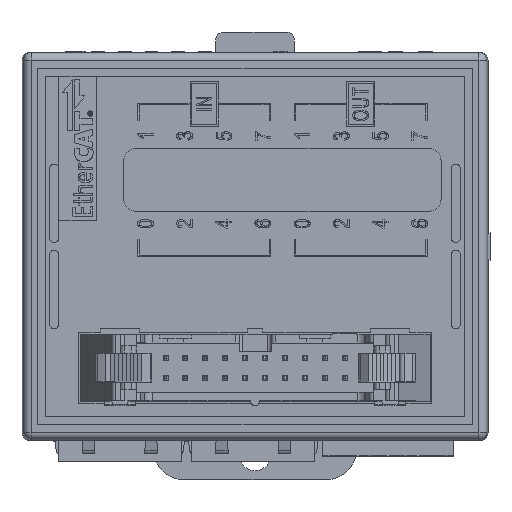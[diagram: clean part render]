
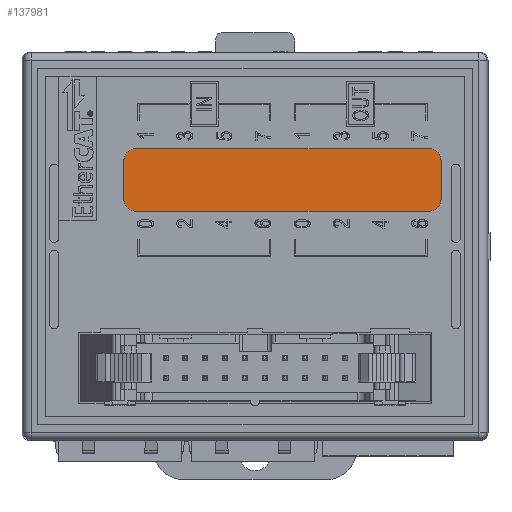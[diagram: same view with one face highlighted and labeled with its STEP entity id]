
A CAD part, top view. The second image highlights one B-rep face of the part: STEP entity #137981.
In plain terms, the highlighted planar face has unit normal (0, 0, 1).
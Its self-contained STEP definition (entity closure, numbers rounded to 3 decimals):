
#38442=DIRECTION('',(-1.,0.,0.));
#38443=VECTOR('',#38442,37.5);
#38444=CARTESIAN_POINT('',(22.25,12.5,30.9));
#38445=LINE('',#38444,#38443);
#38446=CARTESIAN_POINT('',(22.25,11.,30.9));
#38447=DIRECTION('',(0.,0.,1.));
#38448=DIRECTION('',(1.,0.,0.));
#38449=AXIS2_PLACEMENT_3D('',#38446,#38447,#38448);
#38451=DIRECTION('',(0.,1.,0.));
#38452=VECTOR('',#38451,5.);
#38453=CARTESIAN_POINT('',(23.75,6.,30.9));
#38454=LINE('',#38453,#38452);
#38455=CARTESIAN_POINT('',(22.25,6.,30.9));
#38456=DIRECTION('',(0.,0.,1.));
#38457=DIRECTION('',(0.,-1.,0.));
#38458=AXIS2_PLACEMENT_3D('',#38455,#38456,#38457);
#38460=DIRECTION('',(1.,0.,0.));
#38461=VECTOR('',#38460,37.5);
#38462=CARTESIAN_POINT('',(-15.25,4.5,30.9));
#38463=LINE('',#38462,#38461);
#38464=CARTESIAN_POINT('',(-15.25,6.,30.9));
#38465=DIRECTION('',(0.,0.,1.));
#38466=DIRECTION('',(-1.,0.,0.));
#38467=AXIS2_PLACEMENT_3D('',#38464,#38465,#38466);
#38469=DIRECTION('',(0.,-1.,0.));
#38470=VECTOR('',#38469,5.);
#38471=CARTESIAN_POINT('',(-16.75,11.,30.9));
#38472=LINE('',#38471,#38470);
#38473=CARTESIAN_POINT('',(-15.25,11.,30.9));
#38474=DIRECTION('',(0.,0.,1.));
#38475=DIRECTION('',(0.,1.,0.));
#38476=AXIS2_PLACEMENT_3D('',#38473,#38474,#38475);
#54526=CARTESIAN_POINT('',(-15.25,12.5,30.9));
#54527=VERTEX_POINT('',#54526);
#54528=CARTESIAN_POINT('',(22.25,12.5,30.9));
#54529=VERTEX_POINT('',#54528);
#54530=CARTESIAN_POINT('',(23.75,11.,30.9));
#54531=VERTEX_POINT('',#54530);
#54532=CARTESIAN_POINT('',(23.75,6.,30.9));
#54533=VERTEX_POINT('',#54532);
#54534=CARTESIAN_POINT('',(22.25,4.5,30.9));
#54535=VERTEX_POINT('',#54534);
#54536=CARTESIAN_POINT('',(-15.25,4.5,30.9));
#54537=VERTEX_POINT('',#54536);
#54538=CARTESIAN_POINT('',(-16.75,6.,30.9));
#54539=VERTEX_POINT('',#54538);
#54540=CARTESIAN_POINT('',(-16.75,11.,30.9));
#54541=VERTEX_POINT('',#54540);
#137966=CARTESIAN_POINT('',(3.5,8.5,30.9));
#137967=DIRECTION('',(0.,0.,1.));
#137968=DIRECTION('',(1.,0.,0.));
#137969=AXIS2_PLACEMENT_3D('',#137966,#137967,#137968);
#137970=PLANE('',#137969);
#137971=ORIENTED_EDGE('',*,*,#137806,.F.);
#137972=ORIENTED_EDGE('',*,*,#137828,.F.);
#137973=ORIENTED_EDGE('',*,*,#137849,.F.);
#137974=ORIENTED_EDGE('',*,*,#137870,.F.);
#137975=ORIENTED_EDGE('',*,*,#137891,.F.);
#137976=ORIENTED_EDGE('',*,*,#137912,.F.);
#137977=ORIENTED_EDGE('',*,*,#137933,.F.);
#137978=ORIENTED_EDGE('',*,*,#137953,.F.);
#137979=EDGE_LOOP('',(#137971,#137972,#137973,#137974,#137975,#137976,#137977,
#137978));
#137980=FACE_OUTER_BOUND('',#137979,.F.);
#137981=ADVANCED_FACE('',(#137980),#137970,.T.);
#38450=CIRCLE('',#38449,1.5);
#38459=CIRCLE('',#38458,1.5);
#38468=CIRCLE('',#38467,1.5);
#38477=CIRCLE('',#38476,1.5);
#137806=EDGE_CURVE('',#54529,#54527,#38445,.T.);
#137828=EDGE_CURVE('',#54531,#54529,#38450,.T.);
#137849=EDGE_CURVE('',#54533,#54531,#38454,.T.);
#137870=EDGE_CURVE('',#54535,#54533,#38459,.T.);
#137891=EDGE_CURVE('',#54537,#54535,#38463,.T.);
#137912=EDGE_CURVE('',#54539,#54537,#38468,.T.);
#137933=EDGE_CURVE('',#54541,#54539,#38472,.T.);
#137953=EDGE_CURVE('',#54527,#54541,#38477,.T.);
